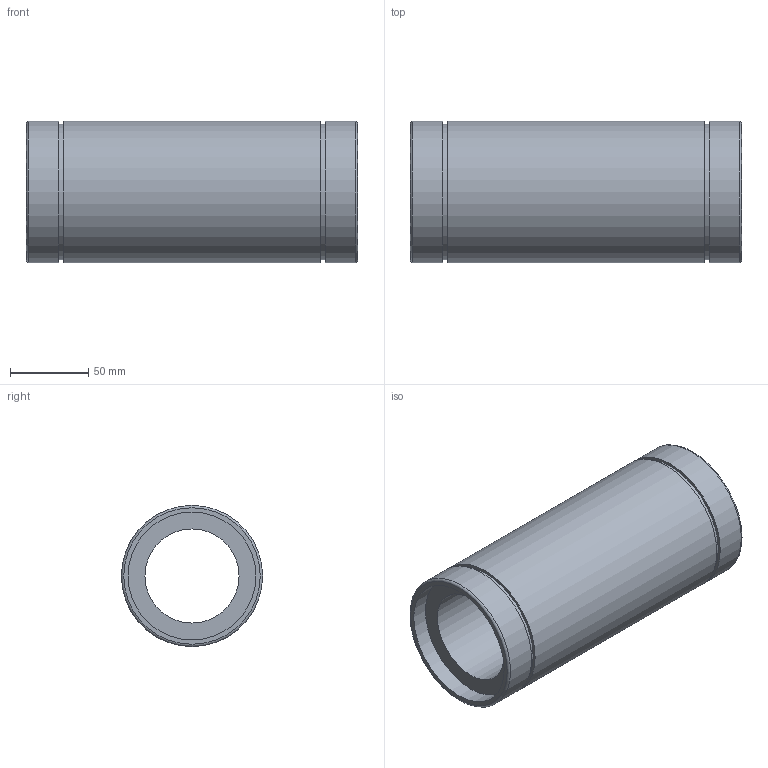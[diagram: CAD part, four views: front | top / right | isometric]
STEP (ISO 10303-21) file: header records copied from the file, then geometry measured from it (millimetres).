
FILE_DESCRIPTION( ( 'Unknown' ), '1' );
FILE_NAME( 'D:/累诀/己绕皋墨飘肺葱胶/11-04-06_档搁累己/01_府聪绢何教/LM L/LM 60L.stp', 'Unknown', ( 'Unknown' ), ( 'Unknown' ), 'PSStep 11.0', 'Unknown', ' ' );
FILE_SCHEMA( ( 'AUTOMOTIVE_DESIGN { 1 0 10303 214 1 1 1 1 }' ) );
Length unit declared in the file: millimetre
Products named in the file (1): 1
Bounding box: 211 x 90 x 90 mm (x, y, z)
Volume: 691992 mm3; surface area: 109430.6 mm2
Topology: 1 solids, 1 shells, 18 faces, 30 edges, 20 vertices
Faces by surface type: plane 8, cylinder 8, torus 2
Full cylindrical faces by diameter (mm): 60 x1, 81.5 x2, 86.5 x2, 90 x3
Entity records: 528 total; most frequent: DIRECTION 74, CARTESIAN_POINT 55, AXIS2_PLACEMENT_3D 37, EDGE_LOOP 36, ORIENTED_EDGE 36, FACE_OUTER_BOUND 28, STYLED_ITEM 18, PRESENTATION_STYLE_ASSIGNMENT 18
